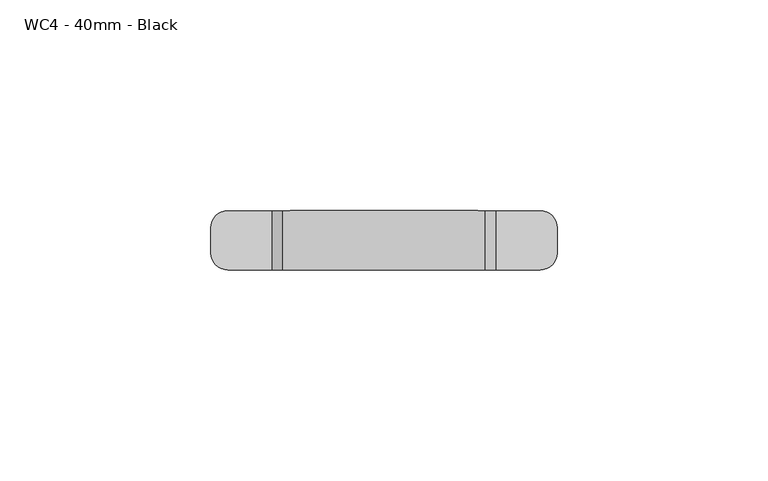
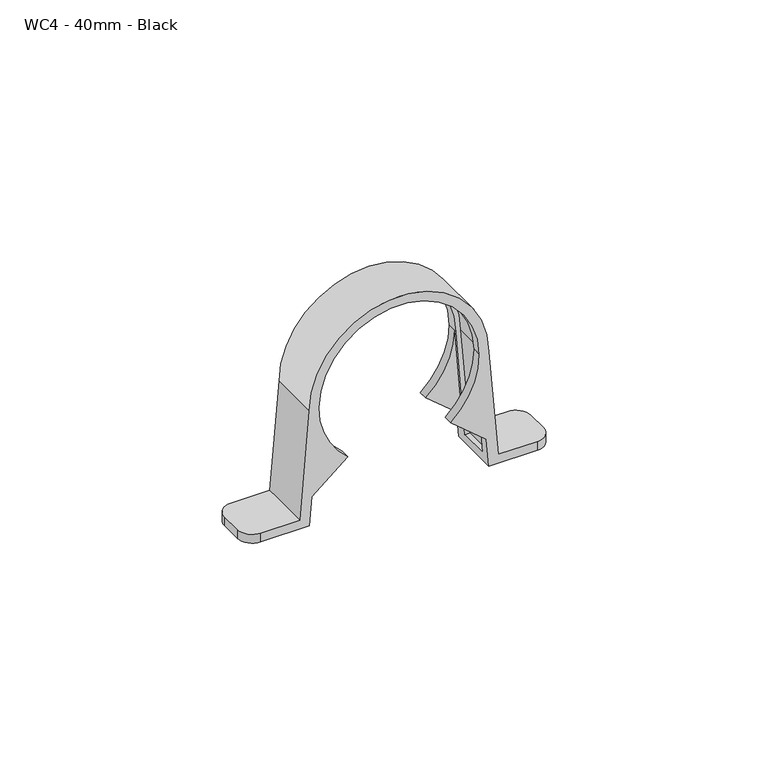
"""IFC4 building model written with IfcOpenShell, lengths in millimetres: pipe fitting geometry, MarleyPlumbingAndDrainage_PipeFitting_SaddlePipeClip : WC4 - 40mm - Black."""

import ifcopenshell
import ifcopenshell.guid

model = None  # the IFC model being written
_history = None  # IfcOwnerHistory: only IFC2X3 demands one
_inside = {}  # id of a spatial element -> (the spatial element, [elements in it])
_under = {}  # id of a project, library or spatial element -> (it, [spatial elements below it])
_declared = {}  # id of a project -> (the project, [libraries it declares])
_typed = {}  # id of a type object -> (the type object, [elements of that type])
_made_of = {}  # id of a material, layer set ... -> (it, [elements and type objects made of it])


def new_model(schema):
    """Start an empty IFC model of exactly this schema.

    Asked for "IFC4X3", IfcOpenShell would pick the latest addendum, in which some entities
    have other attributes; the version numbers below select the first issue.
    IFC2X3 requires an IfcOwnerHistory on every rooted entity: one is made here for all.
    """
    global model, _history
    if schema == "IFC4X3":
        model = ifcopenshell.file(schema_version=(4, 3, 0, 0))
    else:
        model = ifcopenshell.file(schema=schema)
    _inside.clear()
    _under.clear()
    _declared.clear()
    _typed.clear()
    _made_of.clear()
    _history = None
    if model.schema == "IFC2X3":
        org = make("IfcOrganization", Name="unknown")
        user = make(
            "IfcPersonAndOrganization",
            ThePerson=make("IfcPerson", FamilyName="unknown"),
            TheOrganization=org,
        )
        app = make(
            "IfcApplication",
            ApplicationDeveloper=org,
            Version="unknown",
            ApplicationFullName="unknown",
            ApplicationIdentifier="unknown",
        )
        _history = make(
            "IfcOwnerHistory",
            OwningUser=user,
            OwningApplication=app,
            ChangeAction="ADDED",
            CreationDate=0,
        )
    return model


def make(cls, **values):
    """One entity of the class cls with the attributes given. An attribute that is None is left unset."""
    return model.create_entity(
        cls, **{name: value for name, value in values.items() if value is not None}
    )


def rooted(cls, **values):
    """An entity with a GlobalId (a new one), such as an element, a storey or a relation."""
    return make(cls, GlobalId=ifcopenshell.guid.new(), OwnerHistory=_history, **values)


def si_unit(unit_type, name, prefix=None):
    """IfcSIUnit, for example si_unit("LENGTHUNIT", "METRE", prefix="MILLI")."""
    return make("IfcSIUnit", UnitType=unit_type, Prefix=prefix, Name=name)


def assignment(units):
    """IfcUnitAssignment: the units of a project."""
    return None if units is None else make("IfcUnitAssignment", Units=units)


def point(xyz):
    """IfcCartesianPoint."""
    return None if xyz is None else make("IfcCartesianPoint", Coordinates=xyz)


def direction(xyz):
    """IfcDirection."""
    return None if xyz is None else make("IfcDirection", DirectionRatios=xyz)


def frame(location, z_axis=None, x_axis=None):
    """IfcAxis2Placement3D, a coordinate frame: its origin and axes. An axis left out is left unset."""
    return make(
        "IfcAxis2Placement3D",
        Location=point(location),
        Axis=direction(z_axis),
        RefDirection=direction(x_axis),
    )


def origin():
    """The frame at (0, 0, 0) with its axes left unset."""
    return frame((0.0, 0.0, 0.0))


def place(relative_to, where):
    """IfcLocalPlacement: puts the frame where relative to a parent placement (None: the world)."""
    return make(
        "IfcLocalPlacement", PlacementRelTo=relative_to, RelativePlacement=where
    )


def context(
    kind, dimensions, precision=None, world=None, true_north=None, identifier=None
):
    """IfcGeometricRepresentationContext, for example the 3D "Model" context."""
    return make(
        "IfcGeometricRepresentationContext",
        ContextIdentifier=identifier,
        ContextType=kind,
        CoordinateSpaceDimension=dimensions,
        Precision=precision,
        WorldCoordinateSystem=world,
        TrueNorth=true_north,
    )


def project(units=None, contexts=None):
    """IfcProject with its units and contexts."""
    return rooted(
        "IfcProject",
        Name="project",
        RepresentationContexts=contexts,
        UnitsInContext=assignment(units),
    )


def spatial(cls, under=None, at=None, **own):
    """A site, building, storey or space (cls), placed at a placement, below another one or the project."""
    s = rooted(cls, ObjectPlacement=at, **own)
    if under is not None:
        _under.setdefault(under.id(), (under, []))[1].append(s)
    return s


def polyline(points):
    """IfcPolyline through the points."""
    return make("IfcPolyline", Points=[point(p) for p in points])


def circle_curve(where, radius):
    """IfcCircle in the frame where."""
    return make("IfcCircle", Position=where, Radius=radius)


def shape(context_of_items, identifier, shape_type, items):
    """IfcShapeRepresentation: the items that make up one representation, for example the "Body"."""
    return make(
        "IfcShapeRepresentation",
        ContextOfItems=context_of_items,
        RepresentationIdentifier=identifier,
        RepresentationType=shape_type,
        Items=items,
    )


def source(mapping_origin, context_of_items, identifier, shape_type, items):
    """IfcRepresentationMap: a shape defined once, which mapped items show again and again."""
    return make(
        "IfcRepresentationMap",
        MappingOrigin=mapping_origin,
        MappedRepresentation=shape(context_of_items, identifier, shape_type, items),
    )


def transform(
    local_origin,
    x_axis=None,
    y_axis=None,
    z_axis=None,
    scale=None,
    scale2=None,
    scale3=None,
    uniform=True,
):
    """IfcCartesianTransformationOperator3D, or its non-uniform kind. x_axis, y_axis, z_axis: its Axis1, 2, 3."""
    if uniform:
        return make(
            "IfcCartesianTransformationOperator3D",
            Axis1=direction(x_axis),
            Axis2=direction(y_axis),
            LocalOrigin=point(local_origin),
            Scale=scale,
            Axis3=direction(z_axis),
        )
    return make(
        "IfcCartesianTransformationOperator3DnonUniform",
        Axis1=direction(x_axis),
        Axis2=direction(y_axis),
        LocalOrigin=point(local_origin),
        Scale=scale,
        Axis3=direction(z_axis),
        Scale2=scale2,
        Scale3=scale3,
    )


def mapped(mapping_source, mapping_target):
    """IfcMappedItem: shows the shape of a source again, moved by a transform."""
    return make(
        "IfcMappedItem", MappingSource=mapping_source, MappingTarget=mapping_target
    )


def made_of(thing, what):
    """Note that an element or type object is made of a material, layer set ...; save() writes the relation."""
    if what is not None:
        _made_of.setdefault(what.id(), (what, []))[1].append(thing)
    return thing


def element(
    cls,
    number,
    at=None,
    inside=None,
    cuts=None,
    type_object=None,
    material=None,
    context=None,
    identifier="Body",
    shape_type=None,
    held_by="IfcProductDefinitionShape",
    body=None,
    shapes=None,
    **own,
):
    """One element of the class cls, such as IfcWall. Its Tag is "e" and its number.

    at: its placement. inside: the storey or other place that contains it. cuts: it is an
    opening in that element (IfcRelVoidsElement). A single representation is given by context,
    identifier, shape_type and body (its items); several are given by shapes. held_by: the class
    of the entity that holds the representations. save() writes the other relations.
    """
    e = rooted(cls, Tag="e%d" % number, ObjectPlacement=at, **own)
    if body is not None:
        shapes = [shape(context, identifier, shape_type, body)]
    if shapes is not None:
        e.Representation = make(held_by, Representations=shapes)
    if inside is not None:
        _inside.setdefault(inside.id(), (inside, []))[1].append(e)
    if cuts is not None:
        rooted(
            "IfcRelVoidsElement", RelatingBuildingElement=cuts, RelatedOpeningElement=e
        )
    if type_object is not None:
        _typed.setdefault(type_object.id(), (type_object, []))[1].append(e)
    return made_of(e, material)


def aggregate(whole, parts):
    """IfcRelAggregates: a whole, such as a stair, and the parts it consists of."""
    return rooted("IfcRelAggregates", RelatingObject=whole, RelatedObjects=parts)


def save(model, path):
    """Write the relations noted so far, then the file.

    IfcRelAggregates (storeys below a building ...), IfcRelContainedInSpatialStructure (elements
    in a storey), IfcRelDefinesByType, IfcRelAssociatesMaterial and IfcRelDeclares: one each for
    every whole, place, type object, material and project.
    """
    for whole, parts in _under.values():
        aggregate(whole, parts)
    for where, things in _inside.values():
        rooted(
            "IfcRelContainedInSpatialStructure",
            RelatedElements=things,
            RelatingStructure=where,
        )
    for kind, things in _typed.values():
        rooted("IfcRelDefinesByType", RelatedObjects=things, RelatingType=kind)
    for what, things in _made_of.values():
        rooted("IfcRelAssociatesMaterial", RelatedObjects=things, RelatingMaterial=what)
    for by, libraries in _declared.values():
        rooted("IfcRelDeclares", RelatingContext=by, RelatedDefinitions=libraries)
    model.write(path)


def plane_surface(at):
    """IfcPlane: the flat surface through the origin of the frame at, square to its z axis."""
    return make("IfcPlane", Position=at)


def cylinder_surface(at, radius):
    """IfcCylindricalSurface: all points at the distance radius from the z axis of the frame at."""
    return make("IfcCylindricalSurface", Position=at, Radius=radius)


def revolved_surface(curve, axis_point, axis_direction):
    """IfcSurfaceOfRevolution: the curve turned about the line through axis_point along axis_direction."""
    return make(
        "IfcSurfaceOfRevolution",
        SweptCurve=make("IfcArbitraryOpenProfileDef", ProfileType="CURVE", Curve=curve),
        AxisPosition=make("IfcAxis1Placement", Location=point(axis_point), Axis=direction(axis_direction)),
    )


def advanced_brep(points, edges, surfaces, faces):
    """IfcAdvancedBrep: a solid bounded by faces that lie on surfaces and meet in shared edges.

    An edge is (start, end): straight between two places in points (the first is 0);
    or (start, end, curve); or (start, end, curve, False) where it runs against its curve.
    A face is (place in surfaces, loops), or (place, loops, False) where it looks against
    its surface's normal. A loop lists edges by number (the first is 1), with a minus sign
    where the edge is run from its end to its start. The first loop is the outer one.
    """
    corners = [point(p) for p in points]
    vertices = [make("IfcVertexPoint", VertexGeometry=c) for c in corners]
    made = []
    for start, end, *more in edges:
        made.append(
            make(
                "IfcEdgeCurve",
                EdgeStart=vertices[start],
                EdgeEnd=vertices[end],
                EdgeGeometry=more[0] if more else make("IfcPolyline", Points=[corners[start], corners[end]]),
                SameSense=more[1] if len(more) > 1 else True,
            )
        )
    hull = []
    for where, loops, *sense in faces:
        bounds = []
        for j, loop in enumerate(loops):
            ring = [make("IfcOrientedEdge", EdgeElement=made[abs(k) - 1], Orientation=k > 0) for k in loop]
            bounds.append(
                make(
                    "IfcFaceOuterBound" if j == 0 else "IfcFaceBound",
                    Bound=make("IfcEdgeLoop", EdgeList=ring),
                    Orientation=True,
                )
            )
        hull.append(make("IfcAdvancedFace", Bounds=bounds, FaceSurface=surfaces[where], SameSense=sense[0] if sense else True))
    return make("IfcAdvancedBrep", Outer=make("IfcClosedShell", CfsFaces=hull))


def wc4_40mm_black_1d234623(model_context):
    return source(origin(), model_context, "Body", "AdvancedBrep", [
        advanced_brep(
        [(9.2150936, -7.0, -30.0), (6.7150936, -7.0, 0.0), (-41.2849064, -7.0, 0.0), (-43.7849064, -7.0, -30.0), (-54.2849064, -7.0, -30.0), (-54.2849064, -7.0, -32.5), (-41.2849064, -7.0, -32.5), (-40.6741128, -7.0, -24.5596843), (-31.0689551, -7.0, -16.5), (-38.7849064, -7.0, 0.0), (4.2150936, -7.0, 0.0), (-3.5008576, -7.0, -16.5), (6.1043001, -7.0, -24.5596843), (6.7150936, -7.0, -32.5), (19.7150936, -7.0, -32.5), (19.7150936, -7.0, -30.0), (-43.7849064, 7.0, -30.0), (-41.2849064, 7.0, 0.0), (6.7150936, 7.0, 0.0), (9.2150936, 7.0, -30.0), (19.7150936, 7.0, -30.0), (19.7150936, 7.0, -32.5), (6.7150936, 7.0, -32.5), (6.1043001, 7.0, -24.5596843), (-3.5008576, 7.0, -16.5), (4.2150936, 7.0, 0.0), (-38.7849064, 7.0, 0.0), (-31.0689551, 7.0, -16.5), (-40.6741128, 7.0, -24.5596843), (-41.2849064, 7.0, -32.5), (-54.2849064, 7.0, -32.5), (-54.2849064, 7.0, -30.0), (-42.5349064, 3.8, -30.0), (-40.0349064, 3.8, 0.0), (-40.0349064, -4.5, 0.0), (-42.5349064, -4.5, -30.0), (5.4650936, 3.8, 0.0), (5.4650936, -4.5, 0.0), (7.9650936, 3.8, -30.0), (7.9650936, -4.5, -30.0), (9.2150936, -4.5, -30.0), (9.2150936, 3.8, -30.0), (6.7150936, 3.8, 0.0), (6.7150936, -4.5, 0.0), (-41.2849064, 3.8, 0.0), (-41.2849064, -4.5, 0.0), (-43.7849064, 3.8, -30.0), (-43.7849064, -4.5, -30.0), (-38.7849064, 3.8, 0.0), (4.2150936, 3.8, 0.0), (6.5227859, 3.8, -30.0), (-41.0925987, 3.8, -30.0), (23.7150936, 3.0, -32.5), (23.7150936, -3.0, -32.5), (-58.2849064, -3.0, -32.5), (-58.2849064, 3.0, -32.5), (-38.7849064, 4.5, 0.0), (-41.0925987, -4.5, -30.0), (-40.6741128, -4.5, -24.5596843), (-40.6741128, 4.5, -24.5596843), (4.2150936, 4.5, 0.0), (6.1043001, 4.5, -24.5596843), (6.1043001, -4.5, -24.5596843), (6.5227859, -4.5, -30.0), (-31.0689551, 4.5, -16.5), (-3.5008576, 4.5, -16.5), (-38.7849064, -4.5, 0.0), (-31.0689551, -4.5, -16.5), (-3.5008576, -4.5, -16.5), (4.2150936, -4.5, 0.0), (-58.2849064, 3.0, -30.0), (-58.2849064, -3.0, -30.0), (23.7150936, -3.0, -30.0), (23.7150936, 3.0, -30.0)],
        [
            (0, 1),
            (1, 2, circle_curve(frame((-17.2849064, -7.0, 0.0), z_axis=(0.0, -1.0, 0.0), x_axis=(1.0, 0.0, 0.0)), 24.0)),
            (2, 3),
            (3, 4),
            (4, 5),
            (5, 6),
            (6, 7),
            (7, 8),
            (8, 9, circle_curve(frame((-17.2849064, -7.0, 0.0), z_axis=(0.0, 1.0, 0.0), x_axis=(1.0, 0.0, 0.0)), 21.5)),
            (9, 10, circle_curve(frame((-17.2849064, -7.0, 0.0), z_axis=(0.0, 1.0, 0.0), x_axis=(1.0, 0.0, 0.0)), 21.5)),
            (10, 11, circle_curve(frame((-17.2849064, -7.0, 0.0), z_axis=(0.0, 1.0, 0.0), x_axis=(1.0, 0.0, 0.0)), 21.5)),
            (11, 12),
            (12, 13),
            (13, 14),
            (14, 15),
            (15, 0),
            (16, 17),
            (17, 18, circle_curve(frame((-17.2849064, 7.0, 0.0), z_axis=(0.0, 1.0, 0.0), x_axis=(1.0, 0.0, 0.0)), 24.0)),
            (18, 19),
            (19, 20),
            (20, 21),
            (21, 22),
            (22, 23),
            (23, 24),
            (24, 25, circle_curve(frame((-17.2849064, 7.0, 0.0), z_axis=(0.0, -1.0, 0.0), x_axis=(1.0, 0.0, 0.0)), 21.5)),
            (25, 26, circle_curve(frame((-17.2849064, 7.0, 0.0), z_axis=(0.0, -1.0, 0.0), x_axis=(1.0, 0.0, 0.0)), 21.5)),
            (26, 27, circle_curve(frame((-17.2849064, 7.0, 0.0), z_axis=(0.0, -1.0, 0.0), x_axis=(1.0, 0.0, 0.0)), 21.5)),
            (27, 28),
            (28, 29),
            (29, 30),
            (30, 31),
            (31, 16),
            (32, 33),
            (33, 34),
            (34, 35),
            (35, 32),
            (33, 36, circle_curve(frame((-17.2849064, 3.8, 0.0), z_axis=(0.0, 1.0, 0.0), x_axis=(1.0, 0.0, 0.0)), 22.75)),
            (36, 37),
            (37, 34, circle_curve(frame((-17.2849064, -4.5, 0.0), z_axis=(0.0, -1.0, 0.0), x_axis=(1.0, 0.0, 0.0)), 22.75)),
            (36, 38),
            (38, 39),
            (39, 37),
            (0, 40),
            (40, 41),
            (41, 19),
            (18, 42),
            (42, 43),
            (43, 1),
            (17, 44),
            (44, 45),
            (45, 2),
            (16, 46),
            (46, 47),
            (47, 3),
            (48, 49, circle_curve(frame((-17.2849064, 3.8, 0.0), z_axis=(0.0, 1.0, 0.0), x_axis=(1.0, 0.0, 0.0)), 21.5)),
            (49, 50),
            (50, 38),
            (32, 51),
            (51, 48),
            (21, 52, circle_curve(frame((19.7150936, 3.0, -32.5), z_axis=(0.0, 0.0, -1.0), x_axis=(1.0, 0.0, 0.0)), 4.0)),
            (52, 53),
            (53, 14, circle_curve(frame((19.7150936, -3.0, -32.5), z_axis=(0.0, 0.0, -1.0), x_axis=(1.0, 0.0, 0.0)), 4.0)),
            (13, 22),
            (5, 54, circle_curve(frame((-54.2849064, -3.0, -32.5), z_axis=(0.0, 0.0, -1.0), x_axis=(1.0, 0.0, 0.0)), 4.0)),
            (54, 55),
            (55, 30, circle_curve(frame((-54.2849064, 3.0, -32.5), z_axis=(0.0, 0.0, -1.0), x_axis=(1.0, 0.0, 0.0)), 4.0)),
            (29, 6),
            (56, 48),
            (51, 57),
            (57, 58),
            (58, 7),
            (28, 59),
            (59, 56),
            (56, 26),
            (25, 60),
            (60, 49),
            (60, 61),
            (61, 23),
            (12, 62),
            (62, 63),
            (63, 50),
            (59, 64),
            (64, 56, circle_curve(frame((-17.2849064, 4.5, 0.0), z_axis=(0.0, 1.0, 0.0), x_axis=(1.0, 0.0, 0.0)), 21.5)),
            (60, 65, circle_curve(frame((-17.2849064, 4.5, 0.0), z_axis=(0.0, 1.0, 0.0), x_axis=(1.0, 0.0, 0.0)), 21.5)),
            (65, 61),
            (27, 64),
            (24, 65),
            (66, 67, circle_curve(frame((-17.2849064, -4.5, 0.0), z_axis=(0.0, -1.0, 0.0), x_axis=(1.0, 0.0, 0.0)), 21.5)),
            (67, 58),
            (57, 35),
            (39, 63),
            (62, 68),
            (68, 69, circle_curve(frame((-17.2849064, -4.5, 0.0), z_axis=(0.0, -1.0, 0.0), x_axis=(1.0, 0.0, 0.0)), 21.5)),
            (69, 66, circle_curve(frame((-17.2849064, -4.5, 0.0), z_axis=(0.0, -1.0, 0.0), x_axis=(1.0, 0.0, 0.0)), 21.5)),
            (67, 8),
            (66, 9),
            (10, 69),
            (68, 11),
            (31, 70, circle_curve(frame((-54.2849064, 3.0, -30.0), z_axis=(0.0, 0.0, 1.0), x_axis=(1.0, 0.0, 0.0)), 4.0)),
            (70, 71),
            (71, 4, circle_curve(frame((-54.2849064, -3.0, -30.0), z_axis=(0.0, 0.0, 1.0), x_axis=(1.0, 0.0, 0.0)), 4.0)),
            (15, 72, circle_curve(frame((19.7150936, -3.0, -30.0), z_axis=(0.0, 0.0, 1.0), x_axis=(1.0, 0.0, 0.0)), 4.0)),
            (72, 73),
            (73, 20, circle_curve(frame((19.7150936, 3.0, -30.0), z_axis=(0.0, 0.0, 1.0), x_axis=(1.0, 0.0, 0.0)), 4.0)),
            (55, 70),
            (54, 71),
            (53, 72),
            (52, 73),
        ],
        [
            plane_surface(frame((-43.7849064, -7.0, -30.0), z_axis=(0.0, -1.0, 0.0), x_axis=(1.0, 0.0, 0.0))),
            plane_surface(frame((-43.7849064, 7.0, -30.0), z_axis=(0.0, 1.0, 0.0), x_axis=(-1.0, 0.0, 0.0))),
            plane_surface(frame((-42.5349064, -7.0, -30.0), z_axis=(0.9965457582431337, 0.0, -0.08304547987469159), x_axis=(0.0, 1.0, 0.0))),
            revolved_surface(polyline([(5.465093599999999, 3.8, 0.0), (5.465093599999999, -4.5, 0.0)]), (-17.2849064, 7.0, 0.0), (0.0, 1.0, 0.0)),
            plane_surface(frame((5.4650936, -7.0, 0.0), z_axis=(-0.9965457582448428, 0.0, -0.08304547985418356), x_axis=(0.0, 1.0, 0.0))),
            plane_surface(frame((9.2150936, -7.0, -30.0), z_axis=(0.9965457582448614, 0.0, 0.08304547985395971), x_axis=(0.0, 1.0, 0.0))),
            cylinder_surface(frame((-17.2849064, 7.0, 0.0), z_axis=(0.0, -1.0, 0.0), x_axis=(1.0, 0.0, 0.0)), 24.0),
            plane_surface(frame((-41.2849064, -7.0, 0.0), z_axis=(-0.9965457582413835, 0.0, 0.08304547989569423), x_axis=(0.0, 1.0, 0.0))),
            plane_surface(frame((-41.2849064, 3.8, -32.5), z_axis=(0.0, -1.0, 0.0), x_axis=(1.0, 0.0, 0.0))),
            plane_surface(frame((-43.7849064, 3.8, -32.5), z_axis=(0.0, 0.0, -1.0), x_axis=(0.0, 1.0, 0.0))),
            plane_surface(frame((-41.2849064, 3.8, -32.5), z_axis=(0.9970544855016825, 0.0, -0.07669649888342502), x_axis=(0.0, 1.0, 0.0))),
            revolved_surface(polyline([(4.215093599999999, 7.0, 0.0), (4.215093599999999, 3.8, 0.0)]), (-17.2849064, 7.0, 0.0), (0.0, 1.0, 0.0)),
            plane_surface(frame((4.2150936, 3.8, 0.0), z_axis=(-0.9970544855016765, 0.0, -0.07669649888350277), x_axis=(0.0, 1.0, 0.0))),
            plane_surface(frame((-31.0689551, 4.5, -16.5), z_axis=(0.0, -1.0000000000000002, 0.0), x_axis=(0.7660444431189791, 0.0, 0.6427876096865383))),
            plane_surface(frame((-40.6741128, 4.5, -24.5596843), z_axis=(0.6427876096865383, 0.0, -0.7660444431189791), x_axis=(0.0, 1.0, 0.0))),
            revolved_surface(polyline([(4.215093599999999, 7.0, 0.0), (4.215093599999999, 4.5, 0.0)]), (-17.2849064, 7.0, 0.0), (0.0, 1.0, 0.0)),
            revolved_surface(polyline([(4.215093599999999, 7.0, 0.0), (4.215093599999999, 4.5, 0.0)]), (-17.2849064, 0.0, 0.0), (0.0, 1.0, 0.0)),
            plane_surface(frame((-3.5008576, 4.5, -16.5), z_axis=(-0.6427876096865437, 0.0, -0.7660444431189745), x_axis=(0.0, 1.0, 0.0))),
            plane_surface(frame((-31.0689551, -4.5, -16.5), z_axis=(0.0, 1.0, 0.0), x_axis=(-0.7660444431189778, 0.0, -0.6427876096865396))),
            plane_surface(frame((-40.6741128, -7.0, -24.5596843), z_axis=(0.6427876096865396, 0.0, -0.7660444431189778), x_axis=(0.0, 1.0, 0.0))),
            revolved_surface(polyline([(4.215093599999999, -4.5, 0.0), (4.215093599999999, -7.0, 0.0)]), (-17.2849064, -4.5, 0.0), (0.0, 1.0, 0.0)),
            revolved_surface(polyline([(4.215093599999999, -4.5, 0.0), (4.215093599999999, -7.0, 0.0)]), (-17.2849064, 0.0, 0.0), (0.0, 1.0, 0.0)),
            plane_surface(frame((-3.5008576, -7.0, -16.5), z_axis=(-0.6427876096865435, 0.0, -0.7660444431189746), x_axis=(0.0, 1.0, 0.0))),
            plane_surface(frame((-54.2849064, 7.0, -30.0), z_axis=(0.0, 0.0, 1.0), x_axis=(-1.0, 0.0, 0.0))),
            cylinder_surface(frame((-54.2849064, 3.0, -32.5), z_axis=(0.0, 0.0, 1.0), x_axis=(1.0, 0.0, 0.0)), 4.0),
            plane_surface(frame((-58.2849064, 3.0, -30.0), z_axis=(-1.0, 0.0, 0.0), x_axis=(0.0, 0.0, -1.0))),
            cylinder_surface(frame((-54.2849064, -3.0, -32.5), z_axis=(0.0, 0.0, 1.0), x_axis=(1.0, 0.0, 0.0)), 4.0),
            cylinder_surface(frame((19.7150936, -3.0, -32.5), z_axis=(0.0, 0.0, 1.0), x_axis=(1.0, 0.0, 0.0)), 4.0),
            plane_surface(frame((23.7150936, -3.0, -30.0), z_axis=(1.0, 0.0, 0.0), x_axis=(0.0, 0.0, -1.0))),
            cylinder_surface(frame((19.7150936, 3.0, -32.5), z_axis=(0.0, 0.0, 1.0), x_axis=(1.0, 0.0, 0.0)), 4.0),
        ],
        [
            (0, [[1, 2, 3, 4, 5, 6, 7, 8, 9, 10, 11, 12, 13, 14, 15, 16]]),
            (1, [[17, 18, 19, 20, 21, 22, 23, 24, 25, 26, 27, 28, 29, 30, 31, 32]]),
            (2, [[33, 34, 35, 36]]),
            (3, [[37, 38, 39, -34]]),
            (4, [[40, 41, 42, -38]]),
            (5, [[-1, 43, 44, 45, -19, 46, 47, 48]]),
            (6, [[-2, -48, -47, -46, -18, 49, 50, 51]]),
            (7, [[-3, -51, -50, -49, -17, 52, 53, 54]]),
            (8, [[55, 56, 57, -40, -37, -33, 58, 59]]),
            (9, [[60, 61, 62, -14, 63, -22]]),
            (9, [[64, 65, 66, -30, 67, -6]]),
            (10, [[68, -59, 69, 70, 71, -7, -67, -29, 72, 73]]),
            (11, [[-55, -68, 74, -26, 75, 76]]),
            (12, [[-76, 77, 78, -23, -63, -13, 79, 80, 81, -56]]),
            (13, [[82, 83, -73]]),
            (13, [[84, 85, -77]]),
            (14, [[-28, 86, -82, -72]]),
            (15, [[-27, -74, -83, -86]]),
            (16, [[-25, 87, -84, -75]]),
            (17, [[-24, -78, -85, -87]]),
            (18, [[88, 89, -70, 90, -35, -39, -42, 91, -80, 92, 93, 94]]),
            (19, [[-8, -71, -89, 95]]),
            (20, [[-9, -95, -88, 96]]),
            (21, [[-11, 97, -93, 98]]),
            (22, [[-12, -98, -92, -79]]),
            (20, [[-10, -96, -94, -97]]),
            (23, [[-36, -90, -69, -58]]),
            (23, [[-41, -57, -81, -91]]),
            (23, [[99, 100, 101, -4, -54, -53, -52, -32]]),
            (23, [[102, 103, 104, -20, -45, -44, -43, -16]]),
            (24, [[-66, 105, -99, -31]]),
            (25, [[-65, 106, -100, -105]]),
            (26, [[-64, -5, -101, -106]]),
            (27, [[-62, 107, -102, -15]]),
            (28, [[-61, 108, -103, -107]]),
            (29, [[-60, -21, -104, -108]]),
        ],
    ),
    ])


if __name__ == "__main__":
    model = new_model("IFC4")
    model_context = context("Model", 3, world=origin())
    ifc_project = project(units=[si_unit("LENGTHUNIT", "METRE", prefix="MILLI")], contexts=[model_context])
    site = spatial("IfcSite", under=ifc_project)
    building = spatial("IfcBuilding", under=site)
    placement = place(None, origin())
    wc4_40mm_black_shape = wc4_40mm_black_1d234623(model_context)
    element("IfcPipeFitting", 1, ObjectType="MarleyPlumbingAndDrainage_PipeFitting_SaddlePipeClip : WC4 - 40mm - Black", at=placement, inside=building, context=model_context, shape_type="MappedRepresentation", body=[
        mapped(wc4_40mm_black_shape, transform((0.0, 0.0, 0.0), x_axis=(1.0, 0.0, 0.0), y_axis=(0.0, 1.0, 0.0), z_axis=(0.0, 0.0, 1.0))),
    ])
    save(model, "model.ifc")
